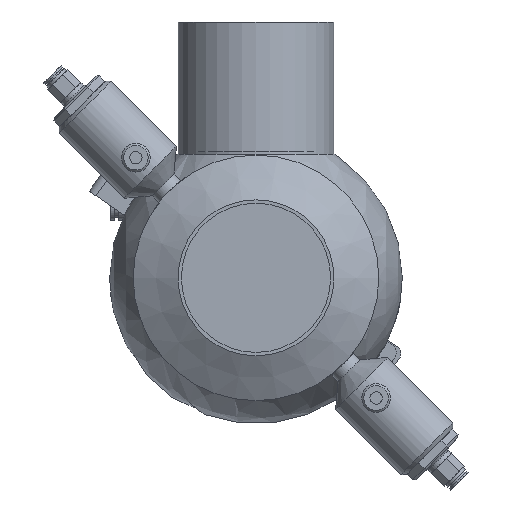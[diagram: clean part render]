
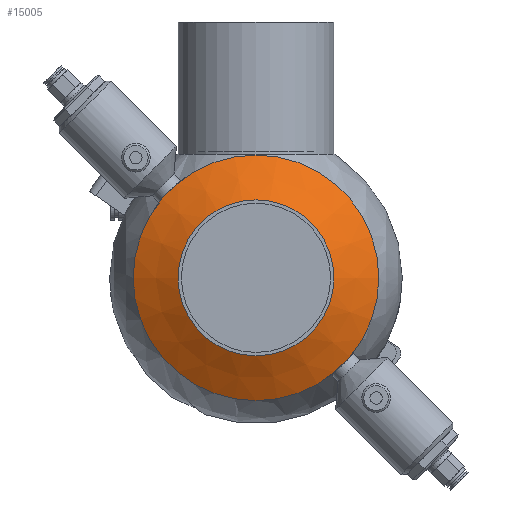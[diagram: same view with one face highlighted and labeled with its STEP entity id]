
A CAD part, front view. The second image highlights one B-rep face of the part: STEP entity #15005.
In plain terms, the highlighted conical face has half-angle 60 degrees and reference radius 60 mm.
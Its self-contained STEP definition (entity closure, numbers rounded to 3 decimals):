
#3832 = CARTESIAN_POINT ( 'NONE',  ( 0., -77.644, 0. ) ) ;
#12640 = EDGE_CURVE ( 'NONE', #51945, #51945, #48236, .T. ) ;
#13171 = CARTESIAN_POINT ( 'NONE',  ( 0., -65., 60. ) ) ;
#13496 = EDGE_LOOP ( 'NONE', ( #15435 ) ) ;
#14410 = DIRECTION ( 'NONE',  ( 0., 1., 0. ) ) ;
#15005 = ADVANCED_FACE ( 'NONE', ( #61443, #30983 ), #55633, .T. ) ;
#15435 = ORIENTED_EDGE ( 'NONE', *, *, #39601, .F. ) ;
#16122 = DIRECTION ( 'NONE',  ( 0., 1., 0. ) ) ;
#17602 = CARTESIAN_POINT ( 'NONE',  ( 0., -77.644, 38.1 ) ) ;
#23219 = AXIS2_PLACEMENT_3D ( 'NONE', #26373, #16122, #41732 ) ;
#26373 = CARTESIAN_POINT ( 'NONE',  ( 0., -65., 0. ) ) ;
#27898 = AXIS2_PLACEMENT_3D ( 'NONE', #41830, #31929, #60509 ) ;
#30073 = EDGE_LOOP ( 'NONE', ( #47355 ) ) ;
#30983 = FACE_OUTER_BOUND ( 'NONE', #13496, .T. ) ;
#31929 = DIRECTION ( 'NONE',  ( 0., 1., 0. ) ) ;
#33987 = DIRECTION ( 'NONE',  ( 0., 0., 1. ) ) ;
#39601 = EDGE_CURVE ( 'NONE', #62578, #62578, #50932, .T. ) ;
#41732 = DIRECTION ( 'NONE',  ( 0., 0., 1. ) ) ;
#41830 = CARTESIAN_POINT ( 'NONE',  ( 0., -65., 0. ) ) ;
#44096 = AXIS2_PLACEMENT_3D ( 'NONE', #3832, #14410, #33987 ) ;
#47355 = ORIENTED_EDGE ( 'NONE', *, *, #12640, .T. ) ;
#48236 = CIRCLE ( 'NONE', #44096, 38.1 ) ;
#50932 = CIRCLE ( 'NONE', #23219, 60. ) ;
#51945 = VERTEX_POINT ( 'NONE', #17602 ) ;
#55633 = CONICAL_SURFACE ( 'NONE', #27898, 60., 1.047 ) ;
#60509 = DIRECTION ( 'NONE',  ( 0., 0., 1. ) ) ;
#61443 = FACE_BOUND ( 'NONE', #30073, .T. ) ;
#62578 = VERTEX_POINT ( 'NONE', #13171 ) ;
